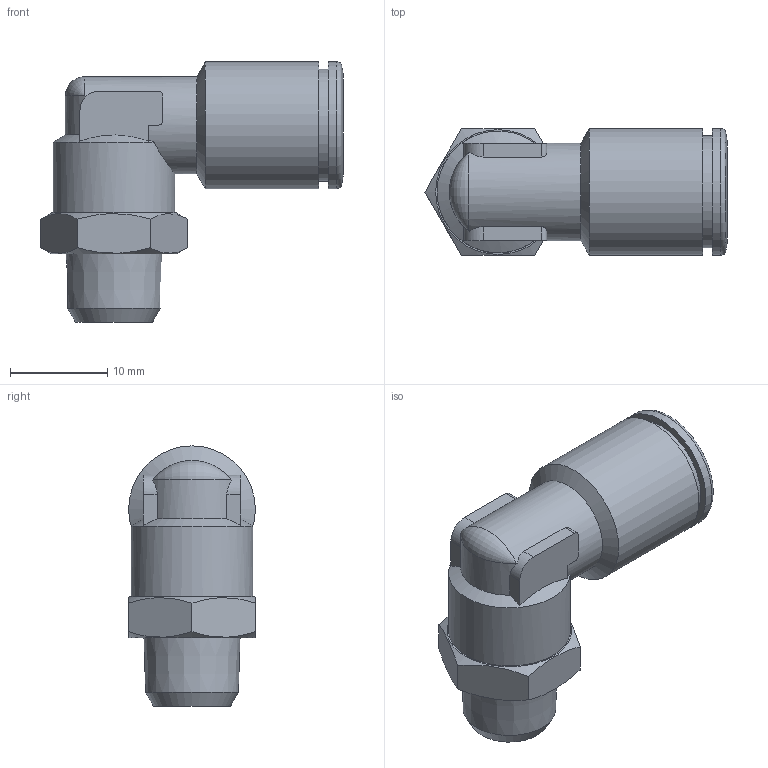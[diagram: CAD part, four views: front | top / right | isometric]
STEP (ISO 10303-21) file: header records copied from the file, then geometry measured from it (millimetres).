
FILE_DESCRIPTION(/* description */ (''),/* implementation_level */ '2;1');
FILE_NAME(/* name */ '202255-ES_STX022K_8_R18_14.06.16',/* time_stamp */ '2016-06-14T10:21:56+02:00',/* author */ (''),/* organization */ (''),/* preprocessor_version */ 'ST-DEVELOPER v14',/* originating_system */ 'HiCAD 2013 1802.4 Build 509',/* authorisation */ '');
FILE_SCHEMA (('AUTOMOTIVE_DESIGN { 1 0 10303 214 1 1 1 1 }'));
Length unit declared in the file: millimetre
Products named in the file (4): Root; 214625-1-N2; R202205-ES-N1-N2; DR8-1_NEU
Assembly tree (3 placements, depth 2):
  Root
    214625-1-N2
    R202205-ES-N1-N2
    DR8-1_NEU
Bounding box: 31.01 x 13 x 26.7 mm (x, y, z)
Volume: 2979.6 mm3; surface area: 3928 mm2
Topology: 3 solids, 3 shells, 72 faces, 163 edges, 102 vertices
Faces by surface type: plane 28, cylinder 23, cone 19, torus 2
Full cylindrical faces by diameter (mm): 5.5 x1, 6 x1, 8.1 x1, 8.2 x1, 9 x2, 10 x1, 10.1 x3, 11 x1, 11.5 x1, 11.6 x1, 12.5 x1, 13 x2
Entity records: 4391 total; most frequent: CARTESIAN_POINT 1598, DIRECTION 342, PRESENTATION_STYLE_ASSIGNMENT 249, OVER_RIDING_STYLED_ITEM 246, COLOUR_RGB 240, DRAUGHTING_PRE_DEFINED_CURVE_FONT 238, CURVE_STYLE 238, ORIENTED_EDGE 238
